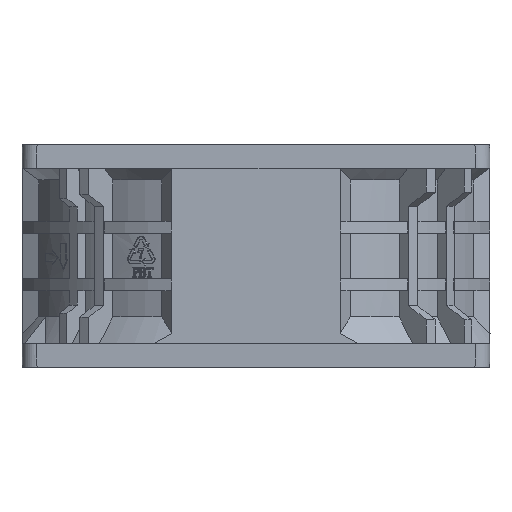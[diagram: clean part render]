
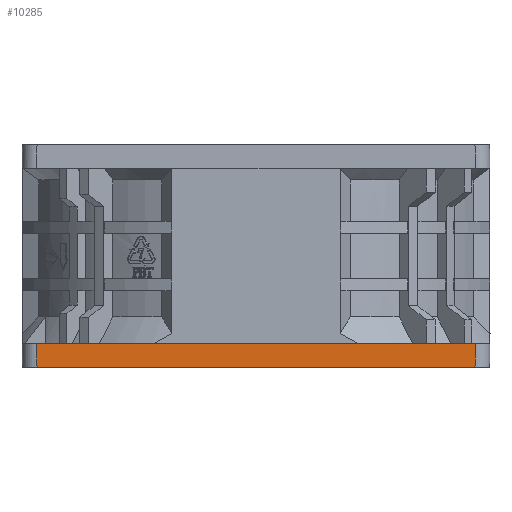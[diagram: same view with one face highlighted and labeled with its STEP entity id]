
A CAD part, front view. The second image highlights one B-rep face of the part: STEP entity #10285.
In plain terms, the highlighted planar face has unit normal (0, -1, -0.018).
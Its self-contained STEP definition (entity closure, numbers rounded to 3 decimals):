
#346 = VECTOR ( 'NONE', #5613, 1000. ) ;
#808 = LINE ( 'NONE', #8961, #4994 ) ;
#884 = AXIS2_PLACEMENT_3D ( 'NONE', #5546, #19846, #11293 ) ;
#965 = DIRECTION ( 'NONE',  ( -1., 0., 0. ) ) ;
#1809 = EDGE_CURVE ( 'NONE', #11043, #23077, #4457, .T. ) ;
#2549 = DIRECTION ( 'NONE',  ( -1., 0., 0. ) ) ;
#3143 = PLANE ( 'NONE',  #884 ) ;
#3235 = CARTESIAN_POINT ( 'NONE',  ( 62.5, -440., 4. ) ) ;
#3535 = CARTESIAN_POINT ( 'NONE',  ( 137.431, -439.93, 0. ) ) ;
#4457 = LINE ( 'NONE', #12992, #20647 ) ;
#4654 = CARTESIAN_POINT ( 'NONE',  ( 62.523, -439.977, 2.667 ) ) ;
#4994 = VECTOR ( 'NONE', #2549, 1000. ) ;
#5417 = FACE_OUTER_BOUND ( 'NONE', #24421, .T. ) ;
#5546 = CARTESIAN_POINT ( 'NONE',  ( 140., -440., 4. ) ) ;
#5613 = DIRECTION ( 'NONE',  ( -1., 0., 0. ) ) ;
#7058 = EDGE_CURVE ( 'NONE', #20697, #17100, #21268, .T. ) ;
#7619 = CARTESIAN_POINT ( 'NONE',  ( 140., -440., 4. ) ) ;
#8640 = ORIENTED_EDGE ( 'NONE', *, *, #15582, .T. ) ;
#8802 = EDGE_CURVE ( 'NONE', #23077, #15988, #11475, .T. ) ;
#8936 = ORIENTED_EDGE ( 'NONE', *, *, #1809, .T. ) ;
#8961 = CARTESIAN_POINT ( 'NONE',  ( 140., -440., 4. ) ) ;
#9050 = EDGE_CURVE ( 'NONE', #17100, #15988, #23891, .T. ) ;
#9099 = CARTESIAN_POINT ( 'NONE',  ( 117.598, -440., 4. ) ) ;
#9110 = CARTESIAN_POINT ( 'NONE',  ( 100., -439.93, 0. ) ) ;
#9227 = CARTESIAN_POINT ( 'NONE',  ( 137.5, -440., 4. ) ) ;
#10285 = ADVANCED_FACE ( 'NONE', ( #5417 ), #3143, .T. ) ;
#11043 = VERTEX_POINT ( 'NONE', #9099 ) ;
#11293 = DIRECTION ( 'NONE',  ( 0., 0.017, -1. ) ) ;
#11475 = LINE ( 'NONE', #7619, #346 ) ;
#12207 = DIRECTION ( 'NONE',  ( 0.017, -0.017, 1. ) ) ;
#12992 = CARTESIAN_POINT ( 'NONE',  ( 140., -440., 4. ) ) ;
#14162 = CARTESIAN_POINT ( 'NONE',  ( 62.569, -439.93, 0. ) ) ;
#15102 = ORIENTED_EDGE ( 'NONE', *, *, #7058, .F. ) ;
#15582 = EDGE_CURVE ( 'NONE', #20697, #22854, #17836, .T. ) ;
#15988 = VERTEX_POINT ( 'NONE', #3235 ) ;
#17100 = VERTEX_POINT ( 'NONE', #14162 ) ;
#17812 = VECTOR ( 'NONE', #965, 1000. ) ;
#17836 = LINE ( 'NONE', #3535, #20168 ) ;
#19030 = ORIENTED_EDGE ( 'NONE', *, *, #8802, .T. ) ;
#19216 = CARTESIAN_POINT ( 'NONE',  ( 62.546, -439.953, 1.333 ) ) ;
#19643 = ORIENTED_EDGE ( 'NONE', *, *, #9050, .F. ) ;
#19846 = DIRECTION ( 'NONE',  ( 0., -1., -0.017 ) ) ;
#20168 = VECTOR ( 'NONE', #12207, 1000. ) ;
#20647 = VECTOR ( 'NONE', #23159, 1000. ) ;
#20697 = VERTEX_POINT ( 'NONE', #24108 ) ;
#20817 = CARTESIAN_POINT ( 'NONE',  ( 62.5, -440., 4. ) ) ;
#21268 = LINE ( 'NONE', #9110, #17812 ) ;
#22363 = EDGE_CURVE ( 'NONE', #22854, #11043, #808, .T. ) ;
#22854 = VERTEX_POINT ( 'NONE', #9227 ) ;
#23077 = VERTEX_POINT ( 'NONE', #23665 ) ;
#23159 = DIRECTION ( 'NONE',  ( -1., 0., 0. ) ) ;
#23430 = ORIENTED_EDGE ( 'NONE', *, *, #22363, .T. ) ;
#23665 = CARTESIAN_POINT ( 'NONE',  ( 82.402, -440., 4. ) ) ;
#23891 = B_SPLINE_CURVE_WITH_KNOTS ( 'NONE', 3,
 ( #25235, #19216, #4654, #20817 ),
 .UNSPECIFIED., .F., .F.,
 ( 4, 4 ),
 ( 0., 1. ),
 .UNSPECIFIED. ) ;
#24108 = CARTESIAN_POINT ( 'NONE',  ( 137.431, -439.93, 0. ) ) ;
#24421 = EDGE_LOOP ( 'NONE', ( #23430, #8936, #19030, #19643, #15102, #8640 ) ) ;
#25235 = CARTESIAN_POINT ( 'NONE',  ( 62.569, -439.93, 0. ) ) ;
